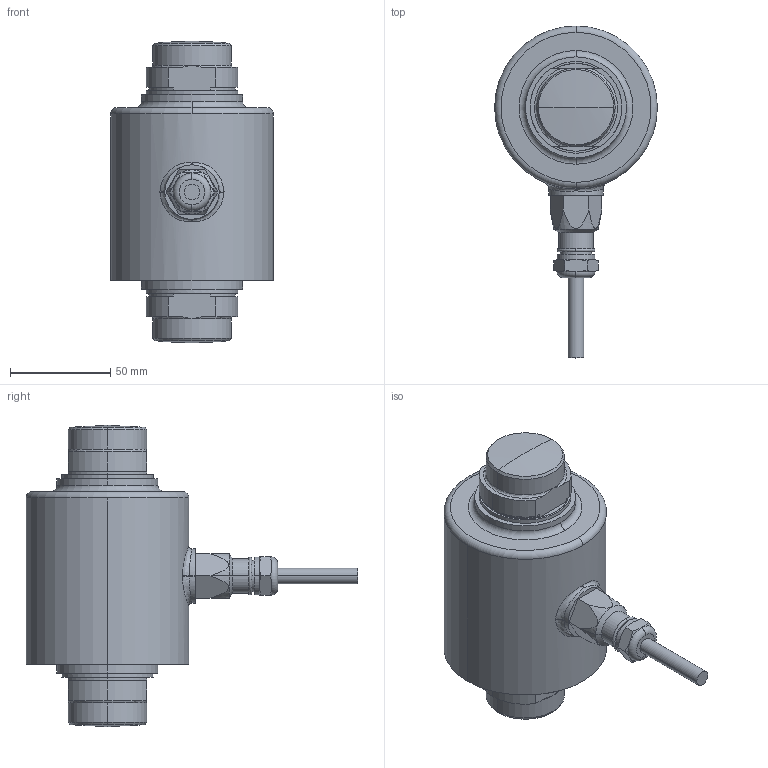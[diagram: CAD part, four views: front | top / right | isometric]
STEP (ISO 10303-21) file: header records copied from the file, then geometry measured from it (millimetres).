
FILE_DESCRIPTION (( 'STEP AP214' ), '1' );
FILE_NAME ('SM63-40t.STEP', '2010-12-16T14:54:03', ( 'D. Hüttmann' ), ( 'Microsoft' ), 'SwSTEP 2.0', 'SolidWorks 2010', '' );
FILE_SCHEMA (( 'AUTOMOTIVE_DESIGN' ));
Length unit declared in the file: millimetre
Products named in the file (1): SM63-40t
Bounding box: 81 x 165.17 x 150 mm (x, y, z)
Volume: 542184.4 mm3; surface area: 45392.3 mm2
Topology: 1 solids, 1 shells, 132 faces, 330 edges, 208 vertices
Faces by surface type: plane 46, cylinder 37, torus 22, cone 19, sphere 4, bspline 4
Entity records: 6748 total; most frequent: CARTESIAN_POINT 3575, DIRECTION 679, ORIENTED_EDGE 660, EDGE_CURVE 330, AXIS2_PLACEMENT_3D 277, VERTEX_POINT 208, CIRCLE 148, EDGE_LOOP 140
